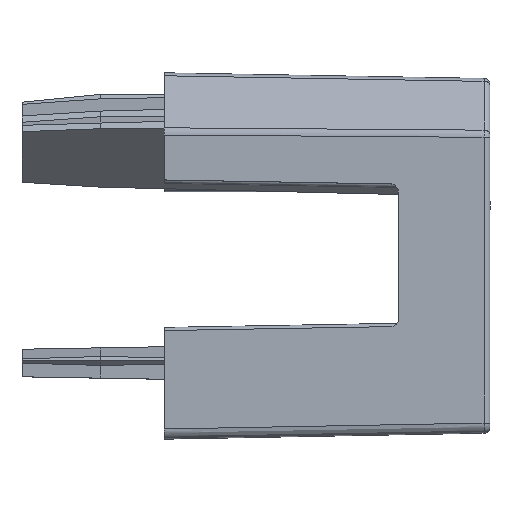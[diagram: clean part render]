
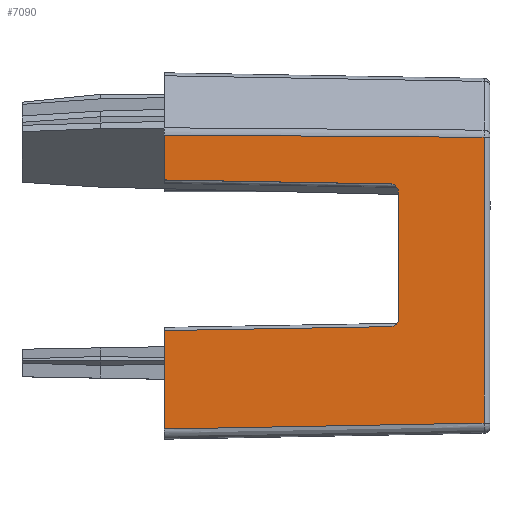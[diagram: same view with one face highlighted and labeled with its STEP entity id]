
A CAD part, top view. The second image highlights one B-rep face of the part: STEP entity #7090.
In plain terms, the highlighted planar face has unit normal (0.018, 0, 1).
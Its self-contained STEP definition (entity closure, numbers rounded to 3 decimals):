
#72 = CARTESIAN_POINT ( 'NONE',  ( 13., -146.555, 341.721 ) ) ;
#80 = VERTEX_POINT ( 'NONE', #2012 ) ;
#419 = DIRECTION ( 'NONE',  ( -1., 0., 0.017 ) ) ;
#485 = EDGE_CURVE ( 'NONE', #3989, #5468, #10684, .T. ) ;
#489 = VERTEX_POINT ( 'NONE', #4076 ) ;
#500 = LINE ( 'NONE', #7336, #11104 ) ;
#536 = CARTESIAN_POINT ( 'NONE',  ( 1.5, -158.431, 341.921 ) ) ;
#696 = VECTOR ( 'NONE', #9267, 1000. ) ;
#707 = ORIENTED_EDGE ( 'NONE', *, *, #8514, .F. ) ;
#734 = CARTESIAN_POINT ( 'NONE',  ( 1.5, -143.983, 341.921 ) ) ;
#963 = VERTEX_POINT ( 'NONE', #1204 ) ;
#1073 = CARTESIAN_POINT ( 'NONE',  ( 13.009, -153.393, 341.72 ) ) ;
#1160 = CARTESIAN_POINT ( 'NONE',  ( 12.838, -146.39, 341.723 ) ) ;
#1204 = CARTESIAN_POINT ( 'NONE',  ( 12.607, -146.386, 341.727 ) ) ;
#1219 = CARTESIAN_POINT ( 'NONE',  ( 11.97, -158.237, 341.739 ) ) ;
#1292 = DIRECTION ( 'NONE',  ( -0.017, 0., -1. ) ) ;
#1534 = LINE ( 'NONE', #3274, #10338 ) ;
#1945 = LINE ( 'NONE', #1073, #10880 ) ;
#2006 = ORIENTED_EDGE ( 'NONE', *, *, #3858, .F. ) ;
#2012 = CARTESIAN_POINT ( 'NONE',  ( 13., -153., 341.721 ) ) ;
#2199 = ORIENTED_EDGE ( 'NONE', *, *, #7748, .F. ) ;
#2256 = CARTESIAN_POINT ( 'NONE',  ( 12.838, -153.396, 341.723 ) ) ;
#2399 = EDGE_CURVE ( 'NONE', #8042, #10218, #4310, .T. ) ;
#2632 = EDGE_CURVE ( 'NONE', #8042, #963, #8404, .T. ) ;
#2983 = ORIENTED_EDGE ( 'NONE', *, *, #485, .F. ) ;
#3274 = CARTESIAN_POINT ( 'NONE',  ( 17.205, -144.984, 341.647 ) ) ;
#3858 = EDGE_CURVE ( 'NONE', #10218, #7074, #10889, .T. ) ;
#3989 = VERTEX_POINT ( 'NONE', #9441 ) ;
#4076 = CARTESIAN_POINT ( 'NONE',  ( 12.607, -153.4, 341.727 ) ) ;
#4108 = ORIENTED_EDGE ( 'NONE', *, *, #2399, .F. ) ;
#4215 = ORIENTED_EDGE ( 'NONE', *, *, #9129, .T. ) ;
#4310 = LINE ( 'NONE', #11382, #4945 ) ;
#4685 = CARTESIAN_POINT ( 'NONE',  ( 1.507, -143.983, 341.921 ) ) ;
#4753 = FACE_OUTER_BOUND ( 'NONE', #7226, .T. ) ;
#4825 = CARTESIAN_POINT ( 'NONE',  ( 17.205, -144.096, 341.647 ) ) ;
#4945 = VECTOR ( 'NONE', #7619, 1000. ) ;
#5071 = DIRECTION ( 'NONE',  ( 0., -1., 0. ) ) ;
#5468 = VERTEX_POINT ( 'NONE', #536 ) ;
#5587 = EDGE_CURVE ( 'NONE', #5468, #8427, #6847, .T. ) ;
#5634 = DIRECTION ( 'NONE',  ( 1., 0.017, -0.017 ) ) ;
#5724 = VECTOR ( 'NONE', #11201, 1000. ) ;
#6058 = VECTOR ( 'NONE', #11063, 1000. ) ;
#6217 = AXIS2_PLACEMENT_3D ( 'NONE', #8423, #1292, #419 ) ;
#6291 = EDGE_CURVE ( 'NONE', #489, #80, #11172, .T. ) ;
#6642 = CARTESIAN_POINT ( 'NONE',  ( 13., -153.231, 341.721 ) ) ;
#6678 = CARTESIAN_POINT ( 'NONE',  ( 17.205, -158.139, 341.647 ) ) ;
#6811 = CARTESIAN_POINT ( 'NONE',  ( 12.607, -153.4, 341.727 ) ) ;
#6847 = LINE ( 'NONE', #10269, #5724 ) ;
#6907 = CARTESIAN_POINT ( 'NONE',  ( 1.5, -153.593, 341.921 ) ) ;
#6915 = CARTESIAN_POINT ( 'NONE',  ( 1.5, -146.192, 341.921 ) ) ;
#7074 = VERTEX_POINT ( 'NONE', #4825 ) ;
#7090 = ADVANCED_FACE ( 'NONE', ( #4753 ), #8369, .F. ) ;
#7192 = CARTESIAN_POINT ( 'NONE',  ( 12.607, -146.386, 341.727 ) ) ;
#7226 = EDGE_LOOP ( 'NONE', ( #2006, #4108, #11193, #707, #4215, #11413, #2199, #7939, #2983, #7289 ) ) ;
#7289 = ORIENTED_EDGE ( 'NONE', *, *, #7882, .F. ) ;
#7336 = CARTESIAN_POINT ( 'NONE',  ( 13., -145.9, 341.721 ) ) ;
#7521 = CARTESIAN_POINT ( 'NONE',  ( 13.009, -146.393, 341.72 ) ) ;
#7619 = DIRECTION ( 'NONE',  ( 0., 1., 0. ) ) ;
#7748 = EDGE_CURVE ( 'NONE', #8427, #489, #1945, .T. ) ;
#7882 = EDGE_CURVE ( 'NONE', #7074, #3989, #1534, .T. ) ;
#7939 = ORIENTED_EDGE ( 'NONE', *, *, #5587, .F. ) ;
#8042 = VERTEX_POINT ( 'NONE', #6915 ) ;
#8369 = PLANE ( 'NONE',  #6217 ) ;
#8404 = LINE ( 'NONE', #7521, #6058 ) ;
#8423 = CARTESIAN_POINT ( 'NONE',  ( 1.5, -144.984, 341.921 ) ) ;
#8427 = VERTEX_POINT ( 'NONE', #6907 ) ;
#8449 = CARTESIAN_POINT ( 'NONE',  ( 13., -153., 341.721 ) ) ;
#8514 = EDGE_CURVE ( 'NONE', #9289, #963, #9102, .T. ) ;
#9102 =( BOUNDED_CURVE ( )  B_SPLINE_CURVE ( 3, ( #9806, #72, #1160, #7192 ),
 .UNSPECIFIED., .F., .F. ) 
 B_SPLINE_CURVE_WITH_KNOTS ( ( 4, 4 ),
 ( 0., 1.553 ),
 .UNSPECIFIED. ) 
 CURVE ( )  GEOMETRIC_REPRESENTATION_ITEM ( )  RATIONAL_B_SPLINE_CURVE ( ( 1., 0.809, 0.809, 1. ) ) 
 REPRESENTATION_ITEM ( '' )  );
#9129 = EDGE_CURVE ( 'NONE', #9289, #80, #500, .T. ) ;
#9267 = DIRECTION ( 'NONE',  ( 1., -0.007, -0.017 ) ) ;
#9289 = VERTEX_POINT ( 'NONE', #9429 ) ;
#9429 = CARTESIAN_POINT ( 'NONE',  ( 13., -146.786, 341.721 ) ) ;
#9441 = CARTESIAN_POINT ( 'NONE',  ( 17.205, -158.139, 341.647 ) ) ;
#9806 = CARTESIAN_POINT ( 'NONE',  ( 13., -146.786, 341.721 ) ) ;
#10034 = CARTESIAN_POINT ( 'NONE',  ( 1.5, -158.431, 341.921 ) ) ;
#10149 = CARTESIAN_POINT ( 'NONE',  ( 6.735, -158.335, 341.83 ) ) ;
#10218 = VERTEX_POINT ( 'NONE', #734 ) ;
#10269 = CARTESIAN_POINT ( 'NONE',  ( 1.5, -141.392, 341.921 ) ) ;
#10338 = VECTOR ( 'NONE', #5071, 1000. ) ;
#10684 = B_SPLINE_CURVE_WITH_KNOTS ( 'NONE', 3,
 ( #6678, #1219, #10149, #10034 ),
 .UNSPECIFIED., .F., .F.,
 ( 4, 4 ),
 ( 0., 0.016 ),
 .UNSPECIFIED. ) ;
#10880 = VECTOR ( 'NONE', #5634, 1000. ) ;
#10881 = DIRECTION ( 'NONE',  ( 0., -1., 0. ) ) ;
#10889 = LINE ( 'NONE', #4685, #696 ) ;
#11063 = DIRECTION ( 'NONE',  ( 1., -0.017, -0.017 ) ) ;
#11104 = VECTOR ( 'NONE', #10881, 1000. ) ;
#11172 =( BOUNDED_CURVE ( )  B_SPLINE_CURVE ( 3, ( #6811, #2256, #6642, #8449 ),
 .UNSPECIFIED., .F., .F. ) 
 B_SPLINE_CURVE_WITH_KNOTS ( ( 4, 4 ),
 ( 4.73, 6.283 ),
 .UNSPECIFIED. ) 
 CURVE ( )  GEOMETRIC_REPRESENTATION_ITEM ( )  RATIONAL_B_SPLINE_CURVE ( ( 1., 0.809, 0.809, 1. ) ) 
 REPRESENTATION_ITEM ( '' )  );
#11193 = ORIENTED_EDGE ( 'NONE', *, *, #2632, .T. ) ;
#11201 = DIRECTION ( 'NONE',  ( 0., 1., 0. ) ) ;
#11382 = CARTESIAN_POINT ( 'NONE',  ( 1.5, -142.421, 341.921 ) ) ;
#11413 = ORIENTED_EDGE ( 'NONE', *, *, #6291, .F. ) ;
